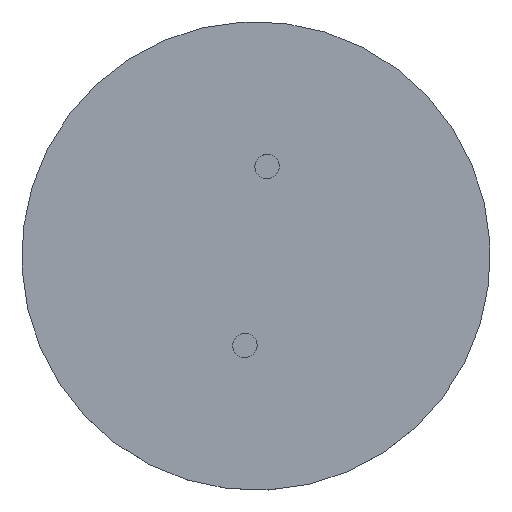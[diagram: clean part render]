
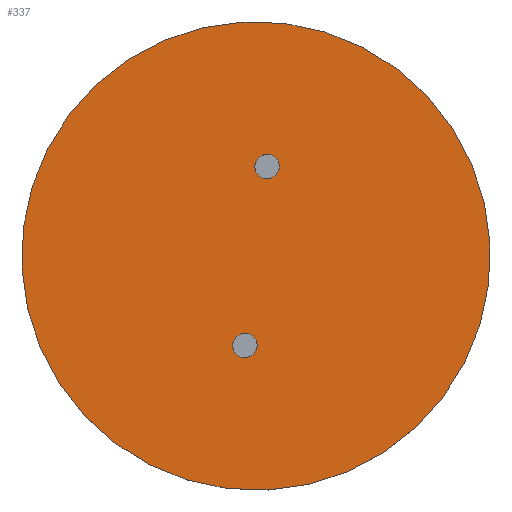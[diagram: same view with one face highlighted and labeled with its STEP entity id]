
A CAD part, top view. The second image highlights one B-rep face of the part: STEP entity #337.
In plain terms, the highlighted planar face has unit normal (0, 0, 1) as drawn and (-1, 0, 0) by its records, which use the part's own axes.
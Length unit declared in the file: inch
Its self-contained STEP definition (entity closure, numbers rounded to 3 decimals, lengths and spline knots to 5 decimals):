
#3 = FACE_BOUND ( 'NONE', #25, .T. ) ;
#15 = CIRCLE ( 'NONE', #107, 1.21875 ) ;
#20 = AXIS2_PLACEMENT_3D ( 'NONE', #321, #632, #256 ) ;
#25 = EDGE_LOOP ( 'NONE', ( #259, #657 ) ) ;
#46 = DIRECTION ( 'NONE',  ( -1., 0., 0. ) ) ;
#56 = EDGE_CURVE ( 'NONE', #586, #114, #601, .T. ) ;
#58 = FACE_OUTER_BOUND ( 'NONE', #625, .T. ) ;
#70 = CARTESIAN_POINT ( 'NONE',  ( 0., 0., -1.21875 ) ) ;
#83 = EDGE_LOOP ( 'NONE', ( #230, #578 ) ) ;
#104 = CIRCLE ( 'NONE', #174, 0.0635 ) ;
#107 = AXIS2_PLACEMENT_3D ( 'NONE', #143, #524, #184 ) ;
#114 = VERTEX_POINT ( 'NONE', #244 ) ;
#122 = CIRCLE ( 'NONE', #246, 1.21875 ) ;
#143 = CARTESIAN_POINT ( 'NONE',  ( 0., 0., 0. ) ) ;
#149 = EDGE_CURVE ( 'NONE', #114, #586, #436, .T. ) ;
#153 = CIRCLE ( 'NONE', #20, 0.0635 ) ;
#174 = AXIS2_PLACEMENT_3D ( 'NONE', #658, #231, #612 ) ;
#184 = DIRECTION ( 'NONE',  ( 0., 0., 1. ) ) ;
#215 = ORIENTED_EDGE ( 'NONE', *, *, #541, .T. ) ;
#230 = ORIENTED_EDGE ( 'NONE', *, *, #613, .F. ) ;
#231 = DIRECTION ( 'NONE',  ( -1., 0., 0. ) ) ;
#242 = VERTEX_POINT ( 'NONE', #583 ) ;
#244 = CARTESIAN_POINT ( 'NONE',  ( 0., -0.46875, 0.0635 ) ) ;
#246 = AXIS2_PLACEMENT_3D ( 'NONE', #351, #46, #611 ) ;
#247 = CARTESIAN_POINT ( 'NONE',  ( 0., -0.46875, 0. ) ) ;
#248 = DIRECTION ( 'NONE',  ( -1., 0., 0. ) ) ;
#255 = DIRECTION ( 'NONE',  ( 0., 0., 1. ) ) ;
#256 = DIRECTION ( 'NONE',  ( 0., 0., 1. ) ) ;
#259 = ORIENTED_EDGE ( 'NONE', *, *, #149, .F. ) ;
#314 = VERTEX_POINT ( 'NONE', #452 ) ;
#321 = CARTESIAN_POINT ( 'NONE',  ( 0., 0.46875, 0. ) ) ;
#337 = ADVANCED_FACE ( 'NONE', ( #591, #3, #58 ), #498, .F. ) ;
#351 = CARTESIAN_POINT ( 'NONE',  ( 0., 0., 0. ) ) ;
#395 = DIRECTION ( 'NONE',  ( -1., 0., 0. ) ) ;
#398 = ORIENTED_EDGE ( 'NONE', *, *, #630, .T. ) ;
#399 = DIRECTION ( 'NONE',  ( 0., 0., 1. ) ) ;
#402 = DIRECTION ( 'NONE',  ( 0., 0., -1. ) ) ;
#412 = VERTEX_POINT ( 'NONE', #70 ) ;
#430 = CARTESIAN_POINT ( 'NONE',  ( 0., -0.46875, 0. ) ) ;
#436 = CIRCLE ( 'NONE', #548, 0.0635 ) ;
#443 = EDGE_CURVE ( 'NONE', #650, #242, #153, .T. ) ;
#452 = CARTESIAN_POINT ( 'NONE',  ( 0., 0., 1.21875 ) ) ;
#498 = PLANE ( 'NONE',  #502 ) ;
#502 = AXIS2_PLACEMENT_3D ( 'NONE', #620, #531, #402 ) ;
#524 = DIRECTION ( 'NONE',  ( -1., 0., 0. ) ) ;
#531 = DIRECTION ( 'NONE',  ( 1., 0., 0. ) ) ;
#541 = EDGE_CURVE ( 'NONE', #314, #412, #15, .T. ) ;
#548 = AXIS2_PLACEMENT_3D ( 'NONE', #430, #395, #399 ) ;
#563 = CARTESIAN_POINT ( 'NONE',  ( 0., 0.46875, -0.0635 ) ) ;
#578 = ORIENTED_EDGE ( 'NONE', *, *, #443, .F. ) ;
#581 = AXIS2_PLACEMENT_3D ( 'NONE', #247, #248, #255 ) ;
#583 = CARTESIAN_POINT ( 'NONE',  ( 0., 0.46875, 0.0635 ) ) ;
#586 = VERTEX_POINT ( 'NONE', #622 ) ;
#591 = FACE_BOUND ( 'NONE', #83, .T. ) ;
#601 = CIRCLE ( 'NONE', #581, 0.0635 ) ;
#611 = DIRECTION ( 'NONE',  ( 0., 0., 1. ) ) ;
#612 = DIRECTION ( 'NONE',  ( 0., 0., 1. ) ) ;
#613 = EDGE_CURVE ( 'NONE', #242, #650, #104, .T. ) ;
#620 = CARTESIAN_POINT ( 'NONE',  ( 0., 0., 0. ) ) ;
#622 = CARTESIAN_POINT ( 'NONE',  ( 0., -0.46875, -0.0635 ) ) ;
#625 = EDGE_LOOP ( 'NONE', ( #215, #398 ) ) ;
#630 = EDGE_CURVE ( 'NONE', #412, #314, #122, .T. ) ;
#632 = DIRECTION ( 'NONE',  ( -1., 0., 0. ) ) ;
#650 = VERTEX_POINT ( 'NONE', #563 ) ;
#657 = ORIENTED_EDGE ( 'NONE', *, *, #56, .F. ) ;
#658 = CARTESIAN_POINT ( 'NONE',  ( 0., 0.46875, 0. ) ) ;
